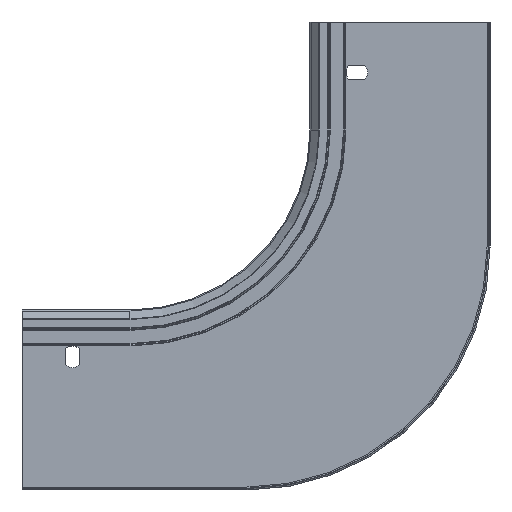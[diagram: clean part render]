
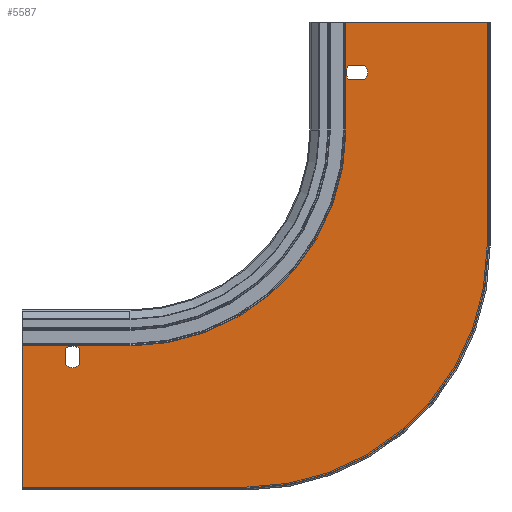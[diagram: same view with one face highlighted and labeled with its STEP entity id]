
A CAD part, left-side view. The second image highlights one B-rep face of the part: STEP entity #5587.
In plain terms, the highlighted planar face has unit normal (-1, 0, 0) as drawn and (0, -1, 0) by its records, which use the part's own axes.
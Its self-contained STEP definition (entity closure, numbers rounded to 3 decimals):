
#15 = CARTESIAN_POINT ( 'NONE',  ( 69.528, 0., -32. ) ) ;
#25 = CARTESIAN_POINT ( 'NONE',  ( 0., 0., -24. ) ) ;
#56 = DIRECTION ( 'NONE',  ( 1., 0., 0. ) ) ;
#74 = DIRECTION ( 'NONE',  ( 0., 0., -1. ) ) ;
#144 = VERTEX_POINT ( 'NONE', #4958 ) ;
#152 = DIRECTION ( 'NONE',  ( 0., 0., 1. ) ) ;
#227 = DIRECTION ( 'NONE',  ( -1., 0., 0. ) ) ;
#237 = AXIS2_PLACEMENT_3D ( 'NONE', #5157, #570, #74 ) ;
#328 = VECTOR ( 'NONE', #3221, 1000. ) ;
#395 = EDGE_CURVE ( 'NONE', #745, #2074, #5033, .T. ) ;
#400 = EDGE_LOOP ( 'NONE', ( #2515, #3976, #3335, #4260, #1444, #1484, #1918, #2749 ) ) ;
#489 = EDGE_CURVE ( 'NONE', #4529, #1754, #3870, .T. ) ;
#567 = VERTEX_POINT ( 'NONE', #3027 ) ;
#570 = DIRECTION ( 'NONE',  ( 0., -1., 0. ) ) ;
#594 = AXIS2_PLACEMENT_3D ( 'NONE', #4230, #932, #5627 ) ;
#626 = ORIENTED_EDGE ( 'NONE', *, *, #5725, .F. ) ;
#657 = EDGE_CURVE ( 'NONE', #1755, #2462, #1233, .T. ) ;
#700 = DIRECTION ( 'NONE',  ( 0., 0., -1. ) ) ;
#745 = VERTEX_POINT ( 'NONE', #3143 ) ;
#767 = ORIENTED_EDGE ( 'NONE', *, *, #2725, .F. ) ;
#794 = VERTEX_POINT ( 'NONE', #15 ) ;
#889 = CARTESIAN_POINT ( 'NONE',  ( 260., 0., -259. ) ) ;
#894 = VECTOR ( 'NONE', #4464, 1000. ) ;
#895 = FACE_BOUND ( 'NONE', #6004, .T. ) ;
#932 = DIRECTION ( 'NONE',  ( 0., -1., 0. ) ) ;
#963 = VERTEX_POINT ( 'NONE', #2611 ) ;
#1015 = PLANE ( 'NONE',  #237 ) ;
#1031 = LINE ( 'NONE', #4208, #328 ) ;
#1050 = DIRECTION ( 'NONE',  ( 0., 0., -1. ) ) ;
#1112 = LINE ( 'NONE', #3943, #894 ) ;
#1157 = AXIS2_PLACEMENT_3D ( 'NONE', #5227, #2872, #5718 ) ;
#1233 = LINE ( 'NONE', #3977, #1633 ) ;
#1392 = ORIENTED_EDGE ( 'NONE', *, *, #4120, .F. ) ;
#1424 = ORIENTED_EDGE ( 'NONE', *, *, #395, .F. ) ;
#1444 = ORIENTED_EDGE ( 'NONE', *, *, #3704, .F. ) ;
#1474 = DIRECTION ( 'NONE',  ( 0., 0., -1. ) ) ;
#1480 = CARTESIAN_POINT ( 'NONE',  ( 236., 0., -190.472 ) ) ;
#1484 = ORIENTED_EDGE ( 'NONE', *, *, #2755, .F. ) ;
#1515 = CARTESIAN_POINT ( 'NONE',  ( 228., 0., -181.528 ) ) ;
#1603 = CARTESIAN_POINT ( 'NONE',  ( 1., 0., 0. ) ) ;
#1633 = VECTOR ( 'NONE', #4376, 1000. ) ;
#1641 = ORIENTED_EDGE ( 'NONE', *, *, #489, .F. ) ;
#1680 = CARTESIAN_POINT ( 'NONE',  ( 80.331, 0., -60. ) ) ;
#1732 = DIRECTION ( 'NONE',  ( 0., -1., 0. ) ) ;
#1754 = VERTEX_POINT ( 'NONE', #5537 ) ;
#1755 = VERTEX_POINT ( 'NONE', #5873 ) ;
#1764 = DIRECTION ( 'NONE',  ( 0., 0., 1. ) ) ;
#1765 = AXIS2_PLACEMENT_3D ( 'NONE', #5959, #3192, #1764 ) ;
#1856 = VECTOR ( 'NONE', #2508, 1000. ) ;
#1918 = ORIENTED_EDGE ( 'NONE', *, *, #3643, .T. ) ;
#1923 = CARTESIAN_POINT ( 'NONE',  ( 232., 0., -186. ) ) ;
#2052 = EDGE_CURVE ( 'NONE', #567, #4232, #3777, .T. ) ;
#2055 = AXIS2_PLACEMENT_3D ( 'NONE', #2871, #2399, #1474 ) ;
#2069 = VECTOR ( 'NONE', #4228, 1000. ) ;
#2074 = VERTEX_POINT ( 'NONE', #5695 ) ;
#2125 = CARTESIAN_POINT ( 'NONE',  ( 260., 0., -259. ) ) ;
#2134 = LINE ( 'NONE', #1680, #5766 ) ;
#2156 = EDGE_CURVE ( 'NONE', #2945, #567, #2848, .T. ) ;
#2212 = CARTESIAN_POINT ( 'NONE',  ( 232., 0., -186. ) ) ;
#2317 = CARTESIAN_POINT ( 'NONE',  ( 69.528, 0., -24. ) ) ;
#2395 = FACE_OUTER_BOUND ( 'NONE', #400, .T. ) ;
#2399 = DIRECTION ( 'NONE',  ( 0., -1., 0. ) ) ;
#2410 = VECTOR ( 'NONE', #700, 1000. ) ;
#2435 = CARTESIAN_POINT ( 'NONE',  ( 236., 0., -181.528 ) ) ;
#2462 = VERTEX_POINT ( 'NONE', #889 ) ;
#2468 = CARTESIAN_POINT ( 'NONE',  ( 1., 0., -125. ) ) ;
#2508 = DIRECTION ( 'NONE',  ( 1., 0., 0. ) ) ;
#2515 = ORIENTED_EDGE ( 'NONE', *, *, #3429, .F. ) ;
#2546 = CARTESIAN_POINT ( 'NONE',  ( 80., 0., 0. ) ) ;
#2611 = CARTESIAN_POINT ( 'NONE',  ( 80.331, 0., 0. ) ) ;
#2721 = VECTOR ( 'NONE', #227, 1000. ) ;
#2725 = EDGE_CURVE ( 'NONE', #1754, #2945, #5364, .T. ) ;
#2749 = ORIENTED_EDGE ( 'NONE', *, *, #4911, .F. ) ;
#2755 = EDGE_CURVE ( 'NONE', #5767, #4373, #5546, .T. ) ;
#2847 = LINE ( 'NONE', #4198, #2921 ) ;
#2848 = LINE ( 'NONE', #5173, #2410 ) ;
#2871 = CARTESIAN_POINT ( 'NONE',  ( 74., 0., -28. ) ) ;
#2872 = DIRECTION ( 'NONE',  ( 0., -1., 0. ) ) ;
#2921 = VECTOR ( 'NONE', #56, 1000. ) ;
#2945 = VERTEX_POINT ( 'NONE', #1515 ) ;
#2959 = CARTESIAN_POINT ( 'NONE',  ( 80.331, 0., -60. ) ) ;
#3027 = CARTESIAN_POINT ( 'NONE',  ( 228., 0., -190.472 ) ) ;
#3143 = CARTESIAN_POINT ( 'NONE',  ( 78.472, 0., -32. ) ) ;
#3192 = DIRECTION ( 'NONE',  ( 0., 1., 0. ) ) ;
#3221 = DIRECTION ( 'NONE',  ( 1., 0., 0. ) ) ;
#3256 = EDGE_CURVE ( 'NONE', #4248, #794, #4584, .T. ) ;
#3335 = ORIENTED_EDGE ( 'NONE', *, *, #3885, .F. ) ;
#3429 = EDGE_CURVE ( 'NONE', #4524, #4948, #4831, .T. ) ;
#3538 = DIRECTION ( 'NONE',  ( 0., 0., 1. ) ) ;
#3593 = AXIS2_PLACEMENT_3D ( 'NONE', #2212, #1732, #4085 ) ;
#3643 = EDGE_CURVE ( 'NONE', #5767, #963, #2134, .T. ) ;
#3704 = EDGE_CURVE ( 'NONE', #4373, #1755, #1031, .T. ) ;
#3777 = CIRCLE ( 'NONE', #594, 6. ) ;
#3784 = DIRECTION ( 'NONE',  ( 0., -1., 0. ) ) ;
#3813 = CIRCLE ( 'NONE', #1765, 134. ) ;
#3814 = FACE_BOUND ( 'NONE', #5465, .T. ) ;
#3846 = CARTESIAN_POINT ( 'NONE',  ( 200., 0., -179.669 ) ) ;
#3870 = CIRCLE ( 'NONE', #5132, 6. ) ;
#3885 = EDGE_CURVE ( 'NONE', #2462, #144, #4388, .T. ) ;
#3943 = CARTESIAN_POINT ( 'NONE',  ( 236., 0., 0. ) ) ;
#3976 = ORIENTED_EDGE ( 'NONE', *, *, #5921, .F. ) ;
#3977 = CARTESIAN_POINT ( 'NONE',  ( 260., 0., -260. ) ) ;
#4056 = DIRECTION ( 'NONE',  ( 0., 0., -1. ) ) ;
#4085 = DIRECTION ( 'NONE',  ( 0., 0., -1. ) ) ;
#4120 = EDGE_CURVE ( 'NONE', #794, #745, #2847, .T. ) ;
#4198 = CARTESIAN_POINT ( 'NONE',  ( 0., 0., -32. ) ) ;
#4208 = CARTESIAN_POINT ( 'NONE',  ( 200., 0., -179.669 ) ) ;
#4228 = DIRECTION ( 'NONE',  ( -1., 0., 0. ) ) ;
#4230 = CARTESIAN_POINT ( 'NONE',  ( 232., 0., -186. ) ) ;
#4232 = VERTEX_POINT ( 'NONE', #1480 ) ;
#4248 = VERTEX_POINT ( 'NONE', #2317 ) ;
#4260 = ORIENTED_EDGE ( 'NONE', *, *, #657, .F. ) ;
#4373 = VERTEX_POINT ( 'NONE', #3846 ) ;
#4376 = DIRECTION ( 'NONE',  ( 0., 0., -1. ) ) ;
#4388 = LINE ( 'NONE', #2125, #2721 ) ;
#4464 = DIRECTION ( 'NONE',  ( 0., 0., 1. ) ) ;
#4524 = VERTEX_POINT ( 'NONE', #5470 ) ;
#4529 = VERTEX_POINT ( 'NONE', #2435 ) ;
#4584 = CIRCLE ( 'NONE', #2055, 6. ) ;
#4686 = LINE ( 'NONE', #25, #2069 ) ;
#4831 = LINE ( 'NONE', #2468, #5460 ) ;
#4911 = EDGE_CURVE ( 'NONE', #4948, #963, #5797, .T. ) ;
#4948 = VERTEX_POINT ( 'NONE', #1603 ) ;
#4958 = CARTESIAN_POINT ( 'NONE',  ( 135., 0., -259. ) ) ;
#5033 = CIRCLE ( 'NONE', #1157, 6. ) ;
#5132 = AXIS2_PLACEMENT_3D ( 'NONE', #1923, #3784, #1050 ) ;
#5157 = CARTESIAN_POINT ( 'NONE',  ( 0., 0., 0. ) ) ;
#5173 = CARTESIAN_POINT ( 'NONE',  ( 228., 0., 0. ) ) ;
#5176 = ORIENTED_EDGE ( 'NONE', *, *, #2156, .F. ) ;
#5211 = EDGE_CURVE ( 'NONE', #2074, #4248, #4686, .T. ) ;
#5227 = CARTESIAN_POINT ( 'NONE',  ( 74., 0., -28. ) ) ;
#5331 = ORIENTED_EDGE ( 'NONE', *, *, #5211, .F. ) ;
#5338 = ORIENTED_EDGE ( 'NONE', *, *, #3256, .F. ) ;
#5364 = CIRCLE ( 'NONE', #3593, 6. ) ;
#5409 = ORIENTED_EDGE ( 'NONE', *, *, #2052, .F. ) ;
#5457 = CARTESIAN_POINT ( 'NONE',  ( 200., 0., -60. ) ) ;
#5460 = VECTOR ( 'NONE', #152, 1000. ) ;
#5465 = EDGE_LOOP ( 'NONE', ( #5409, #5176, #767, #1641, #626 ) ) ;
#5470 = CARTESIAN_POINT ( 'NONE',  ( 1., 0., -125. ) ) ;
#5537 = CARTESIAN_POINT ( 'NONE',  ( 232., 0., -180. ) ) ;
#5546 = CIRCLE ( 'NONE', #5753, 119.669 ) ;
#5587 = ADVANCED_FACE ( 'NONE', ( #895, #3814, #2395 ), #1015, .T. ) ;
#5627 = DIRECTION ( 'NONE',  ( 0., 0., -1. ) ) ;
#5695 = CARTESIAN_POINT ( 'NONE',  ( 78.472, 0., -24. ) ) ;
#5718 = DIRECTION ( 'NONE',  ( 0., 0., -1. ) ) ;
#5725 = EDGE_CURVE ( 'NONE', #4232, #4529, #1112, .T. ) ;
#5753 = AXIS2_PLACEMENT_3D ( 'NONE', #5457, #5901, #4056 ) ;
#5766 = VECTOR ( 'NONE', #3538, 1000. ) ;
#5767 = VERTEX_POINT ( 'NONE', #2959 ) ;
#5797 = LINE ( 'NONE', #2546, #1856 ) ;
#5873 = CARTESIAN_POINT ( 'NONE',  ( 260., 0., -179.669 ) ) ;
#5901 = DIRECTION ( 'NONE',  ( 0., -1., 0. ) ) ;
#5921 = EDGE_CURVE ( 'NONE', #144, #4524, #3813, .T. ) ;
#5959 = CARTESIAN_POINT ( 'NONE',  ( 135., 0., -125. ) ) ;
#6004 = EDGE_LOOP ( 'NONE', ( #5338, #5331, #1424, #1392 ) ) ;
